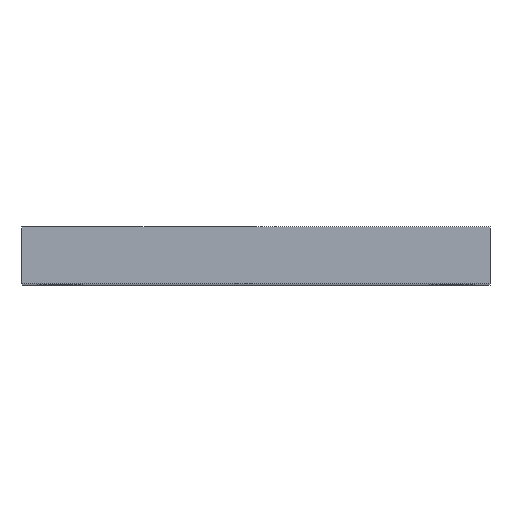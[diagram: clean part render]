
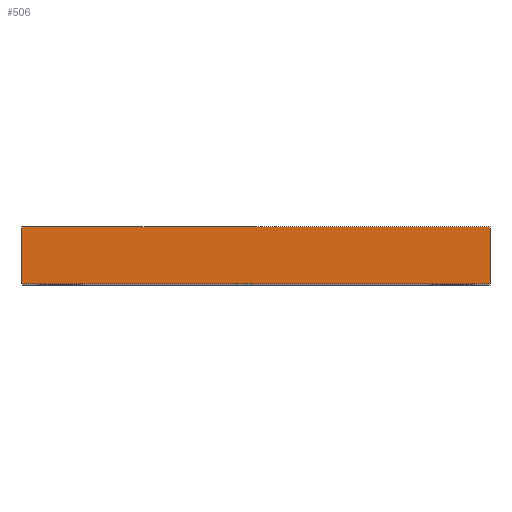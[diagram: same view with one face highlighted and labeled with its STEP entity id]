
A CAD part, top view. The second image highlights one B-rep face of the part: STEP entity #506.
In plain terms, the highlighted planar face has unit normal (0, 0, 1).
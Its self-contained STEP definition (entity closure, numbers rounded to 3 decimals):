
#5 = AXIS2_PLACEMENT_3D ( 'NONE', #715, #165, #342 ) ;
#7 = LINE ( 'NONE', #779, #285 ) ;
#23 = LINE ( 'NONE', #273, #480 ) ;
#28 = PLANE ( 'NONE',  #5 ) ;
#29 = VERTEX_POINT ( 'NONE', #455 ) ;
#31 = VERTEX_POINT ( 'NONE', #251 ) ;
#46 = LINE ( 'NONE', #472, #365 ) ;
#105 = ORIENTED_EDGE ( 'NONE', *, *, #724, .F. ) ;
#106 = CARTESIAN_POINT ( 'NONE',  ( -148., 36., 198. ) ) ;
#121 = VECTOR ( 'NONE', #661, 1000. ) ;
#151 = DIRECTION ( 'NONE',  ( 0., -1., 0. ) ) ;
#165 = DIRECTION ( 'NONE',  ( 0., 0., -1. ) ) ;
#228 = FACE_OUTER_BOUND ( 'NONE', #334, .T. ) ;
#244 = ORIENTED_EDGE ( 'NONE', *, *, #310, .T. ) ;
#251 = CARTESIAN_POINT ( 'NONE',  ( 148., 36., 198. ) ) ;
#253 = LINE ( 'NONE', #106, #121 ) ;
#262 = CARTESIAN_POINT ( 'NONE',  ( -148., 36., 198. ) ) ;
#273 = CARTESIAN_POINT ( 'NONE',  ( -148., 36., 198. ) ) ;
#283 = EDGE_CURVE ( 'NONE', #29, #381, #7, .T. ) ;
#285 = VECTOR ( 'NONE', #422, 1000. ) ;
#296 = ORIENTED_EDGE ( 'NONE', *, *, #283, .T. ) ;
#310 = EDGE_CURVE ( 'NONE', #633, #29, #253, .T. ) ;
#334 = EDGE_LOOP ( 'NONE', ( #296, #105, #532, #244 ) ) ;
#342 = DIRECTION ( 'NONE',  ( -1., 0., 0. ) ) ;
#365 = VECTOR ( 'NONE', #151, 1000. ) ;
#381 = VERTEX_POINT ( 'NONE', #660 ) ;
#422 = DIRECTION ( 'NONE',  ( 1., 0., 0. ) ) ;
#455 = CARTESIAN_POINT ( 'NONE',  ( -148., 0., 198. ) ) ;
#472 = CARTESIAN_POINT ( 'NONE',  ( 148., 36., 198. ) ) ;
#480 = VECTOR ( 'NONE', #555, 1000. ) ;
#506 = ADVANCED_FACE ( 'NONE', ( #228 ), #28, .F. ) ;
#532 = ORIENTED_EDGE ( 'NONE', *, *, #627, .F. ) ;
#555 = DIRECTION ( 'NONE',  ( 1., 0., 0. ) ) ;
#627 = EDGE_CURVE ( 'NONE', #633, #31, #23, .T. ) ;
#633 = VERTEX_POINT ( 'NONE', #262 ) ;
#660 = CARTESIAN_POINT ( 'NONE',  ( 148., 0., 198. ) ) ;
#661 = DIRECTION ( 'NONE',  ( 0., -1., 0. ) ) ;
#715 = CARTESIAN_POINT ( 'NONE',  ( -148., 36., 198. ) ) ;
#724 = EDGE_CURVE ( 'NONE', #31, #381, #46, .T. ) ;
#779 = CARTESIAN_POINT ( 'NONE',  ( -148., 0., 198. ) ) ;
